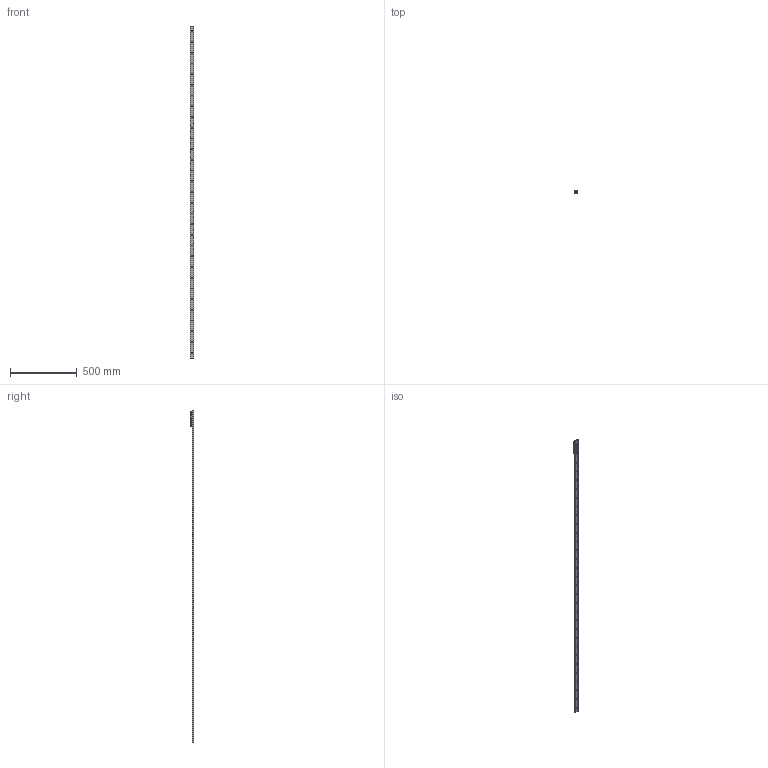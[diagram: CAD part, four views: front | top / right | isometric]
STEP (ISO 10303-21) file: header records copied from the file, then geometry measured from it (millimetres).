
FILE_DESCRIPTION( ( 'STEP AP214' ), '1' );
FILE_NAME( 'p:/temp/worker_24/temp/exporttempdir_5160_184_4TPdB/format_2/TGV-02480_1_RV28G-3.stp', '2020-11-20T16:41:40', ( 'License CC BY-ND 4.0' ), ( 'CADENAS' ), ' ', 'PARTsolutions', ' ' );
FILE_SCHEMA( ( 'AUTOMOTIVE_DESIGN { 1 0 10303 214 1 1 1 1 }' ) );
Length unit declared in the file: millimetre
Products named in the file (6): TGV-02480/1/RV28G-3; _TGV28-2480-(3-1); _RV28G-3-slider; _RGNV28R; _RGAV28R; _WR28G-01
Assembly tree (7 placements, depth 2):
  TGV-02480/1/RV28G-3
    _TGV28-2480-(3-1)
    _RV28G-3-slider
    _RGNV28R  x2
    _RGAV28R
    _WR28G-01  x2
Bounding box: 28 x 24 x 2480 mm (x, y, z)
Volume: 394552.3 mm3; surface area: 253306 mm2
Topology: 7 solids, 7 shells, 1074 faces, 2800 edges, 1822 vertices
Faces by surface type: plane 657, cylinder 311, cone 71, bspline 26, torus 9
Full cylindrical faces by diameter (mm): 1.27 x4, 2 x2, 2.5 x6, 4 x4, 4.134 x4, 4.2 x3, 5 x3, 5.5 x3, 5.75 x31, 7 x5, 7.5 x1, 8 x6, 10.8 x3, 17 x3, 20.75 x6
Entity records: 26221 total; most frequent: CARTESIAN_POINT 4123, DIRECTION 3510, ORIENTED_EDGE 3180, EDGE_CURVE 1590, AXIS2_PLACEMENT_3D 1360, VERTEX_POINT 1122, EDGE_LOOP 977, LINE 790
